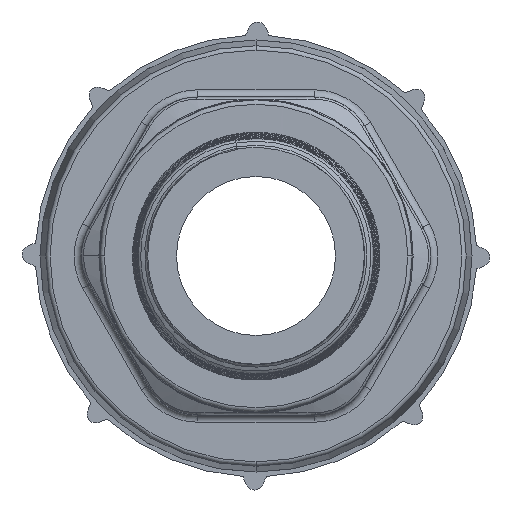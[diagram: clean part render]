
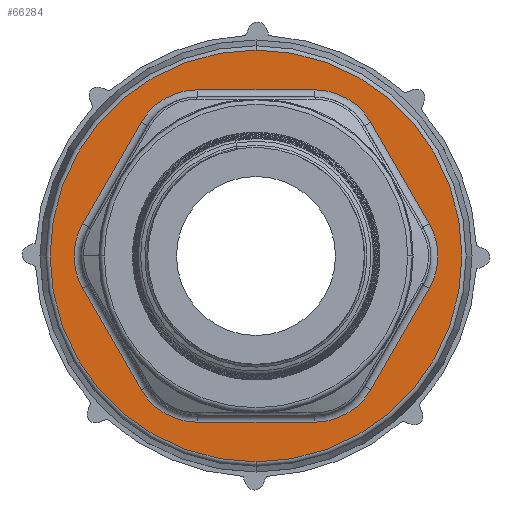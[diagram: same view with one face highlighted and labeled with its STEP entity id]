
A CAD part, left-side view. The second image highlights one B-rep face of the part: STEP entity #66284.
In plain terms, the highlighted planar face has unit normal (-1, 0, 0) as drawn and (1, 0, 0) by its records, which use the part's own axes.
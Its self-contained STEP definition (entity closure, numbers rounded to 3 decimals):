
#530 = EDGE_CURVE ( 'NONE', #16780, #53380, #11077, .T. ) ;
#1495 = CARTESIAN_POINT ( 'NONE',  ( -9.5, -2.25, -11.98 ) ) ;
#1719 = VECTOR ( 'NONE', #42400, 1000. ) ;
#1916 = VERTEX_POINT ( 'NONE', #31176 ) ;
#1985 = AXIS2_PLACEMENT_3D ( 'NONE', #27852, #69610, #57868 ) ;
#2976 = CIRCLE ( 'NONE', #56827, 14.246 ) ;
#3231 = CARTESIAN_POINT ( 'NONE',  ( -9.5, 0., 0. ) ) ;
#3309 = CARTESIAN_POINT ( 'NONE',  ( -9.5, -2.25, 11.98 ) ) ;
#3689 = DIRECTION ( 'NONE',  ( 0., -1., 0. ) ) ;
#5012 = FACE_BOUND ( 'NONE', #75466, .T. ) ;
#6126 = ORIENTED_EDGE ( 'NONE', *, *, #530, .T. ) ;
#6850 = ORIENTED_EDGE ( 'NONE', *, *, #34489, .T. ) ;
#8206 = ORIENTED_EDGE ( 'NONE', *, *, #50920, .T. ) ;
#8673 = DIRECTION ( 'NONE',  ( 0., -1., 0. ) ) ;
#9242 = ORIENTED_EDGE ( 'NONE', *, *, #28987, .T. ) ;
#10975 = DIRECTION ( 'NONE',  ( 0., 0.866, -0.5 ) ) ;
#11077 = LINE ( 'NONE', #30293, #71878 ) ;
#12226 = DIRECTION ( 'NONE',  ( 0., -0.866, 0.5 ) ) ;
#13108 = LINE ( 'NONE', #42655, #44937 ) ;
#13183 = VECTOR ( 'NONE', #34356, 1000. ) ;
#13337 = VECTOR ( 'NONE', #10975, 1000. ) ;
#13757 = EDGE_CURVE ( 'NONE', #29386, #37521, #28393, .T. ) ;
#15997 = CARTESIAN_POINT ( 'NONE',  ( -9.5, -5.75, 9.959 ) ) ;
#16046 = CARTESIAN_POINT ( 'NONE',  ( -9.5, -11.5, 0. ) ) ;
#16780 = VERTEX_POINT ( 'NONE', #1495 ) ;
#16807 = CIRCLE ( 'NONE', #71924, 4.5 ) ;
#17172 = FACE_OUTER_BOUND ( 'NONE', #47893, .T. ) ;
#17248 = AXIS2_PLACEMENT_3D ( 'NONE', #27673, #41256, #52989 ) ;
#18437 = CIRCLE ( 'NONE', #1985, 4.5 ) ;
#18764 = EDGE_CURVE ( 'NONE', #37521, #54558, #60880, .T. ) ;
#19803 = VERTEX_POINT ( 'NONE', #74177 ) ;
#20317 = DIRECTION ( 'NONE',  ( 0., 1., 0. ) ) ;
#21696 = LINE ( 'NONE', #40790, #13337 ) ;
#22225 = LINE ( 'NONE', #15997, #1719 ) ;
#22307 = ORIENTED_EDGE ( 'NONE', *, *, #18764, .T. ) ;
#22308 = CARTESIAN_POINT ( 'NONE',  ( -9.5, 0., 0. ) ) ;
#23521 = DIRECTION ( 'NONE',  ( 1., 0., 0. ) ) ;
#24580 = VERTEX_POINT ( 'NONE', #3309 ) ;
#25107 = DIRECTION ( 'NONE',  ( 0., -0.866, -0.5 ) ) ;
#25792 = ORIENTED_EDGE ( 'NONE', *, *, #41051, .T. ) ;
#25922 = CARTESIAN_POINT ( 'NONE',  ( -9.5, 0., 0. ) ) ;
#26193 = PLANE ( 'NONE',  #60174 ) ;
#26300 = EDGE_CURVE ( 'NONE', #24580, #54772, #61075, .T. ) ;
#26542 = DIRECTION ( 'NONE',  ( 0., -1., 0. ) ) ;
#27673 = CARTESIAN_POINT ( 'NONE',  ( -9.5, 7., 4.041 ) ) ;
#27852 = CARTESIAN_POINT ( 'NONE',  ( -9.5, -7., 4.041 ) ) ;
#28393 = CIRCLE ( 'NONE', #17248, 4.5 ) ;
#28960 = ORIENTED_EDGE ( 'NONE', *, *, #41155, .T. ) ;
#28987 = EDGE_CURVE ( 'NONE', #67296, #48877, #2976, .T. ) ;
#29146 = VECTOR ( 'NONE', #37859, 1000. ) ;
#29386 = VERTEX_POINT ( 'NONE', #76832 ) ;
#30293 = CARTESIAN_POINT ( 'NONE',  ( -9.5, -5.75, -9.959 ) ) ;
#31176 = CARTESIAN_POINT ( 'NONE',  ( -9.5, -11.5, -4.041 ) ) ;
#31824 = CARTESIAN_POINT ( 'NONE',  ( -9.5, 11.5, 0. ) ) ;
#32103 = CARTESIAN_POINT ( 'NONE',  ( -9.5, 11.5, -4.041 ) ) ;
#32477 = AXIS2_PLACEMENT_3D ( 'NONE', #45283, #51259, #3689 ) ;
#32628 = DIRECTION ( 'NONE',  ( -1., 0., 0. ) ) ;
#32678 = ORIENTED_EDGE ( 'NONE', *, *, #74245, .T. ) ;
#33104 = DIRECTION ( 'NONE',  ( -1., 0., 0. ) ) ;
#34027 = DIRECTION ( 'NONE',  ( 0., -1., 0. ) ) ;
#34356 = DIRECTION ( 'NONE',  ( 0., 0., 1. ) ) ;
#34489 = EDGE_CURVE ( 'NONE', #54558, #41068, #16807, .T. ) ;
#34787 = AXIS2_PLACEMENT_3D ( 'NONE', #44495, #56475, #34027 ) ;
#35060 = EDGE_CURVE ( 'NONE', #19803, #16780, #59725, .T. ) ;
#37521 = VERTEX_POINT ( 'NONE', #69642 ) ;
#37859 = DIRECTION ( 'NONE',  ( 0., 0., -1. ) ) ;
#40401 = CARTESIAN_POINT ( 'NONE',  ( -9.5, 2.25, 11.98 ) ) ;
#40627 = ORIENTED_EDGE ( 'NONE', *, *, #35060, .T. ) ;
#40790 = CARTESIAN_POINT ( 'NONE',  ( -9.5, 5.75, 9.959 ) ) ;
#41051 = EDGE_CURVE ( 'NONE', #72437, #71864, #18437, .T. ) ;
#41068 = VERTEX_POINT ( 'NONE', #63317 ) ;
#41155 = EDGE_CURVE ( 'NONE', #48877, #67296, #67975, .T. ) ;
#41256 = DIRECTION ( 'NONE',  ( -1., 0., 0. ) ) ;
#41708 = ORIENTED_EDGE ( 'NONE', *, *, #74934, .T. ) ;
#42393 = AXIS2_PLACEMENT_3D ( 'NONE', #45157, #32628, #49875 ) ;
#42400 = DIRECTION ( 'NONE',  ( 0., 0.866, 0.5 ) ) ;
#42655 = CARTESIAN_POINT ( 'NONE',  ( -9.5, 5.75, -9.959 ) ) ;
#44054 = ORIENTED_EDGE ( 'NONE', *, *, #13757, .T. ) ;
#44495 = CARTESIAN_POINT ( 'NONE',  ( -9.5, 0., 8.083 ) ) ;
#44937 = VECTOR ( 'NONE', #25107, 1000. ) ;
#45157 = CARTESIAN_POINT ( 'NONE',  ( -9.5, -7., -4.041 ) ) ;
#45283 = CARTESIAN_POINT ( 'NONE',  ( -9.5, 0., -8.083 ) ) ;
#45629 = CARTESIAN_POINT ( 'NONE',  ( -9.5, 7., -4.041 ) ) ;
#46885 = CARTESIAN_POINT ( 'NONE',  ( -9.5, -9.25, -7.939 ) ) ;
#47893 = EDGE_LOOP ( 'NONE', ( #9242, #28960 ) ) ;
#48877 = VERTEX_POINT ( 'NONE', #54539 ) ;
#49050 = AXIS2_PLACEMENT_3D ( 'NONE', #22308, #64087, #76152 ) ;
#49875 = DIRECTION ( 'NONE',  ( 0., -1., 0. ) ) ;
#50596 = ORIENTED_EDGE ( 'NONE', *, *, #26300, .T. ) ;
#50920 = EDGE_CURVE ( 'NONE', #1916, #72437, #54350, .T. ) ;
#51259 = DIRECTION ( 'NONE',  ( -1., 0., 0. ) ) ;
#52327 = EDGE_CURVE ( 'NONE', #41068, #19803, #13108, .T. ) ;
#52989 = DIRECTION ( 'NONE',  ( 0., -1., 0. ) ) ;
#53380 = VERTEX_POINT ( 'NONE', #46885 ) ;
#54350 = LINE ( 'NONE', #16046, #13183 ) ;
#54539 = CARTESIAN_POINT ( 'NONE',  ( -9.5, -14.246, 0. ) ) ;
#54558 = VERTEX_POINT ( 'NONE', #32103 ) ;
#54772 = VERTEX_POINT ( 'NONE', #40401 ) ;
#55984 = DIRECTION ( 'NONE',  ( -1., 0., 0. ) ) ;
#56475 = DIRECTION ( 'NONE',  ( -1., 0., 0. ) ) ;
#56827 = AXIS2_PLACEMENT_3D ( 'NONE', #3231, #23521, #20317 ) ;
#57868 = DIRECTION ( 'NONE',  ( 0., -1., 0. ) ) ;
#59725 = CIRCLE ( 'NONE', #32477, 4.5 ) ;
#60174 = AXIS2_PLACEMENT_3D ( 'NONE', #25922, #55984, #8673 ) ;
#60636 = CIRCLE ( 'NONE', #42393, 4.5 ) ;
#60880 = LINE ( 'NONE', #31824, #29146 ) ;
#61075 = CIRCLE ( 'NONE', #34787, 4.5 ) ;
#63317 = CARTESIAN_POINT ( 'NONE',  ( -9.5, 9.25, -7.939 ) ) ;
#64087 = DIRECTION ( 'NONE',  ( 1., 0., 0. ) ) ;
#66284 = ADVANCED_FACE ( 'NONE', ( #5012, #17172 ), #26193, .F. ) ;
#67296 = VERTEX_POINT ( 'NONE', #71754 ) ;
#67827 = EDGE_CURVE ( 'NONE', #54772, #29386, #21696, .T. ) ;
#67975 = CIRCLE ( 'NONE', #49050, 14.246 ) ;
#69610 = DIRECTION ( 'NONE',  ( -1., 0., 0. ) ) ;
#69642 = CARTESIAN_POINT ( 'NONE',  ( -9.5, 11.5, 4.041 ) ) ;
#69926 = CARTESIAN_POINT ( 'NONE',  ( -9.5, -11.5, 4.041 ) ) ;
#71754 = CARTESIAN_POINT ( 'NONE',  ( -9.5, 14.246, 0. ) ) ;
#71864 = VERTEX_POINT ( 'NONE', #74803 ) ;
#71878 = VECTOR ( 'NONE', #12226, 1000. ) ;
#71924 = AXIS2_PLACEMENT_3D ( 'NONE', #45629, #33104, #26542 ) ;
#72437 = VERTEX_POINT ( 'NONE', #69926 ) ;
#74177 = CARTESIAN_POINT ( 'NONE',  ( -9.5, 2.25, -11.98 ) ) ;
#74245 = EDGE_CURVE ( 'NONE', #53380, #1916, #60636, .T. ) ;
#74803 = CARTESIAN_POINT ( 'NONE',  ( -9.5, -9.25, 7.939 ) ) ;
#74934 = EDGE_CURVE ( 'NONE', #71864, #24580, #22225, .T. ) ;
#75466 = EDGE_LOOP ( 'NONE', ( #75773, #44054, #22307, #6850, #75555, #40627, #6126, #32678, #8206, #25792, #41708, #50596 ) ) ;
#75555 = ORIENTED_EDGE ( 'NONE', *, *, #52327, .T. ) ;
#75773 = ORIENTED_EDGE ( 'NONE', *, *, #67827, .T. ) ;
#76152 = DIRECTION ( 'NONE',  ( 0., 1., 0. ) ) ;
#76832 = CARTESIAN_POINT ( 'NONE',  ( -9.5, 9.25, 7.939 ) ) ;
